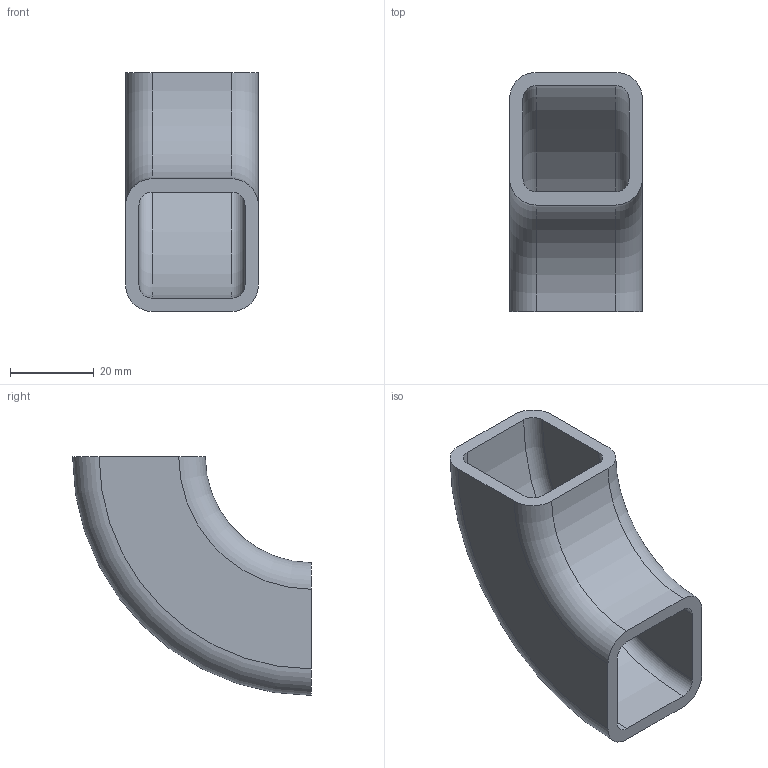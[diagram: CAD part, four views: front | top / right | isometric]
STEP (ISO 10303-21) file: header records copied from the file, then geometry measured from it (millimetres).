
FILE_DESCRIPTION((''),'2;1');
FILE_NAME('C:\Documents and Settings\bamfomg\Desktop\Owens corners\STP FILES\1.25x1.25x0.125 - Aluminum.stp','2011-03-21T13:09:00',('bamfomg'),(''),'Autodesk Inventor 2011','Autodesk Inventor 2011','');
FILE_SCHEMA(('AUTOMOTIVE_DESIGN { 1 0 10303 214 1 1 1 1 }'));
Length unit declared in the file: inch
Products named in the file (1): Square Tube Corners
Bounding box: 31.75 x 57.15 x 57.15 mm (x, y, z)
Volume: 21845.5 mm3; surface area: 14434.9 mm2
Topology: 1 solids, 1 shells, 18 faces, 48 edges, 32 vertices
Faces by surface type: torus 8, plane 6, cylinder 4
Entity records: 616 total; most frequent: DIRECTION 118, CARTESIAN_POINT 99, ORIENTED_EDGE 96, AXIS2_PLACEMENT_3D 51, EDGE_CURVE 48, VERTEX_POINT 32, CIRCLE 32, EDGE_LOOP 20
